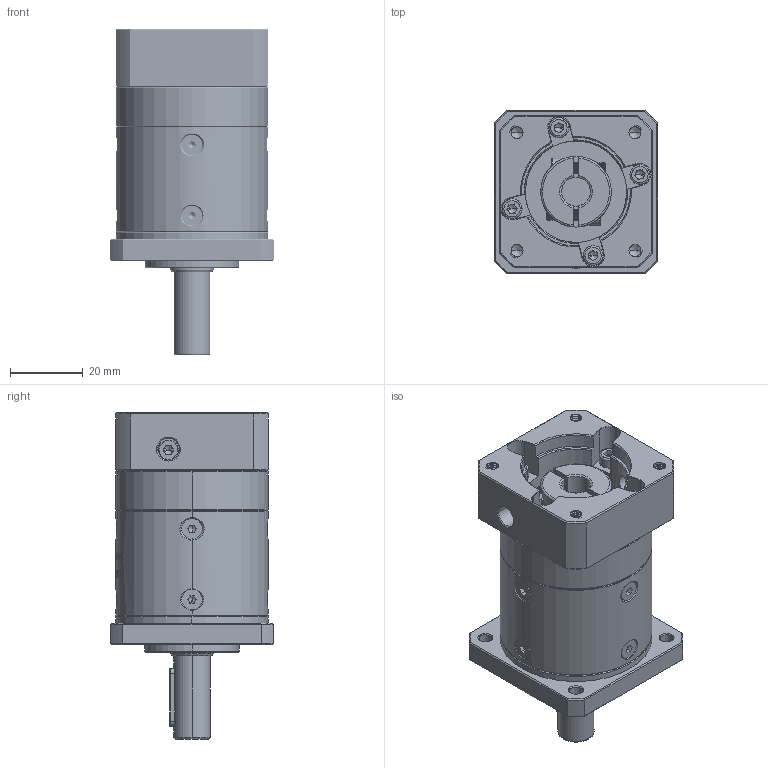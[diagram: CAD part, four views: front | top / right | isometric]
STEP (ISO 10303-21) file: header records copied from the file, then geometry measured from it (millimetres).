
FILE_DESCRIPTION (( 'STEP AP214' ), '1' );
FILE_NAME ('ZF040-D10-L1-P2-8-30-46-M4.STEP', '2023-08-15T11:01:12', ( '' ), ( '' ), 'SwSTEP 2.0', 'SolidWorks 2016', '' );
FILE_SCHEMA (( 'AUTOMOTIVE_DESIGN' ));
Length unit declared in the file: millimetre
Products named in the file (1): ZF040-D10-L1-P2-8-30-46-M4
Bounding box: 45 x 45 x 90 mm (x, y, z)
Volume: 84662.6 mm3; surface area: 26443.7 mm2
Topology: 14 solids, 14 shells, 1506 faces, 3691 edges, 2284 vertices
Faces by surface type: plane 446, cylinder 433, cone 344, bspline 257, torus 26
Entity records: 104881 total; most frequent: CARTESIAN_POINT 55052, ORIENTED_EDGE 7306, DIRECTION 6259, EDGE_CURVE 3653, AXIS2_PLACEMENT_3D 2301, VERTEX_POINT 2284, VECTOR 1657, LINE 1657
